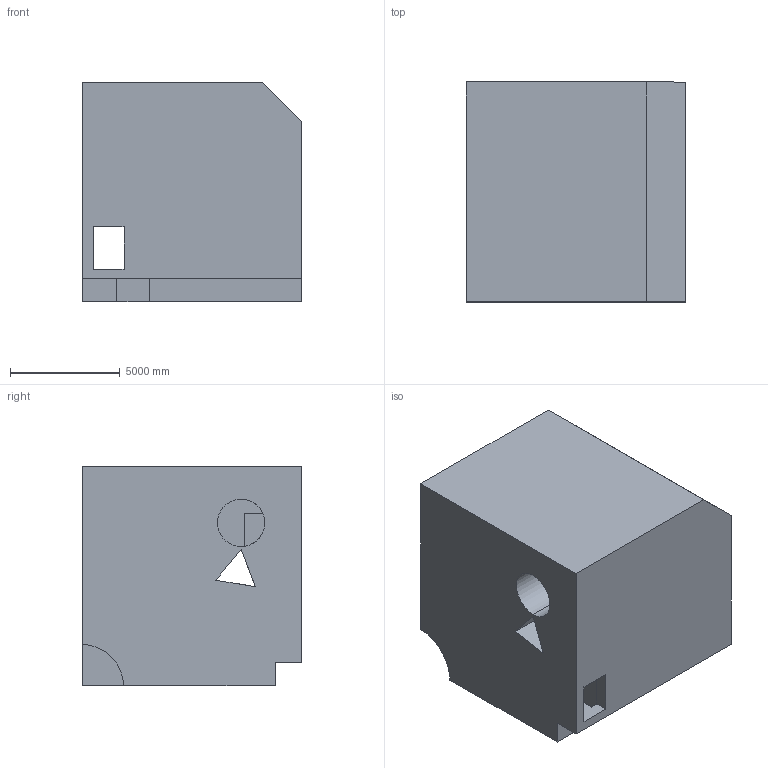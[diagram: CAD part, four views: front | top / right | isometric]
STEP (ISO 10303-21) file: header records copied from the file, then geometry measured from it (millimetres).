
FILE_DESCRIPTION (( 'STEP AP203' ), '1' );
FILE_NAME ('1763.STEP', '2022-08-26T14:10:36', ( 'user' ), ( '' ), 'SwSTEP 2.0', 'SolidWorks 2021', '' );
FILE_SCHEMA (( 'CONFIG_CONTROL_DESIGN' ));
Length unit declared in the file: centimetre
Products named in the file (1): 1763
Bounding box: 10000 x 10000 x 10000 mm (x, y, z)
Volume: 880518285996.6 mm3; surface area: 778831460.7 mm2
Topology: 1 solids, 1 shells, 34 faces, 111 edges, 74 vertices
Faces by surface type: plane 31, cylinder 3
Entity records: 1302 total; most frequent: ORIENTED_EDGE 222, CARTESIAN_POINT 220, DIRECTION 191, EDGE_CURVE 111, VECTOR 101, LINE 101, VERTEX_POINT 74, AXIS2_PLACEMENT_3D 45
